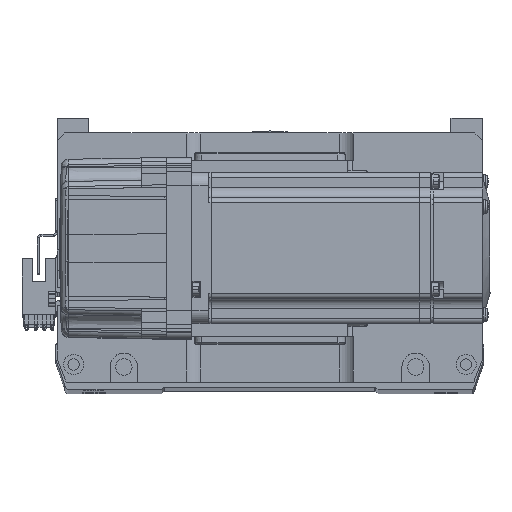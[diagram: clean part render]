
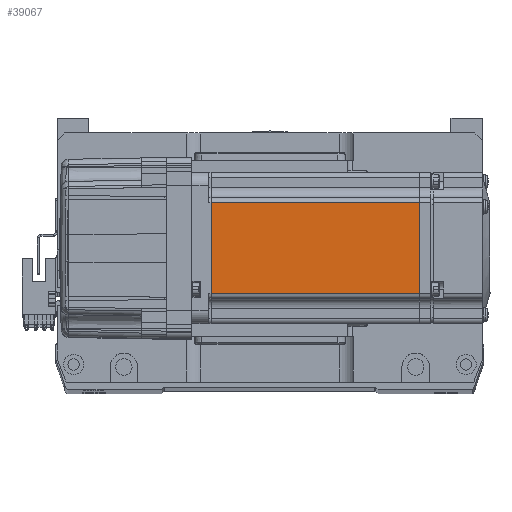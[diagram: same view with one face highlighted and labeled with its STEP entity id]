
A CAD part, top view. The second image highlights one B-rep face of the part: STEP entity #39067.
In plain terms, the highlighted planar face has unit normal (0, 0, 1) as drawn and (0, -1, 0) by its records, which use the part's own axes.
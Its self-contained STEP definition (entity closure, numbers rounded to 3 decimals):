
#316 = VECTOR ( 'NONE', #60681, 1000. ) ;
#1826 = CARTESIAN_POINT ( 'NONE',  ( -90.45, -30., 18. ) ) ;
#2866 = VERTEX_POINT ( 'NONE', #6884 ) ;
#6190 = CARTESIAN_POINT ( 'NONE',  ( -6.5, -30., -18. ) ) ;
#6884 = CARTESIAN_POINT ( 'NONE',  ( -90.45, -30., -18. ) ) ;
#9688 = ORIENTED_EDGE ( 'NONE', *, *, #52835, .T. ) ;
#10331 = EDGE_LOOP ( 'NONE', ( #46534, #24073, #54401, #9688 ) ) ;
#12022 = LINE ( 'NONE', #43626, #52406 ) ;
#13748 = DIRECTION ( 'NONE',  ( 0., -1., 0. ) ) ;
#14353 = VERTEX_POINT ( 'NONE', #53693 ) ;
#17314 = DIRECTION ( 'NONE',  ( -1., 0., 0. ) ) ;
#20297 = EDGE_CURVE ( 'NONE', #21016, #2866, #12022, .T. ) ;
#20891 = LINE ( 'NONE', #55788, #316 ) ;
#21016 = VERTEX_POINT ( 'NONE', #1826 ) ;
#23046 = VERTEX_POINT ( 'NONE', #25765 ) ;
#24073 = ORIENTED_EDGE ( 'NONE', *, *, #36346, .T. ) ;
#25765 = CARTESIAN_POINT ( 'NONE',  ( -7.75, -30., -18. ) ) ;
#26705 = CARTESIAN_POINT ( 'NONE',  ( -6.5, -30., 18. ) ) ;
#30885 = DIRECTION ( 'NONE',  ( 1., 0., 0. ) ) ;
#32397 = LINE ( 'NONE', #26705, #51453 ) ;
#33588 = CARTESIAN_POINT ( 'NONE',  ( -6.5, -30., -25. ) ) ;
#33946 = EDGE_CURVE ( 'NONE', #23046, #14353, #20891, .T. ) ;
#36346 = EDGE_CURVE ( 'NONE', #14353, #21016, #32397, .T. ) ;
#37318 = LINE ( 'NONE', #6190, #51771 ) ;
#39067 = ADVANCED_FACE ( 'NONE', ( #60906 ), #42949, .T. ) ;
#42949 = PLANE ( 'NONE',  #55285 ) ;
#43626 = CARTESIAN_POINT ( 'NONE',  ( -90.45, -30., -25. ) ) ;
#46534 = ORIENTED_EDGE ( 'NONE', *, *, #33946, .T. ) ;
#47861 = DIRECTION ( 'NONE',  ( 0., 0., -1. ) ) ;
#48343 = DIRECTION ( 'NONE',  ( 0., 0., -1. ) ) ;
#51453 = VECTOR ( 'NONE', #17314, 1000. ) ;
#51771 = VECTOR ( 'NONE', #30885, 1000. ) ;
#52406 = VECTOR ( 'NONE', #48343, 1000. ) ;
#52835 = EDGE_CURVE ( 'NONE', #2866, #23046, #37318, .T. ) ;
#53693 = CARTESIAN_POINT ( 'NONE',  ( -7.75, -30., 18. ) ) ;
#54401 = ORIENTED_EDGE ( 'NONE', *, *, #20297, .T. ) ;
#55285 = AXIS2_PLACEMENT_3D ( 'NONE', #33588, #13748, #47861 ) ;
#55788 = CARTESIAN_POINT ( 'NONE',  ( -7.75, -30., -25. ) ) ;
#60681 = DIRECTION ( 'NONE',  ( 0., 0., 1. ) ) ;
#60906 = FACE_OUTER_BOUND ( 'NONE', #10331, .T. ) ;
